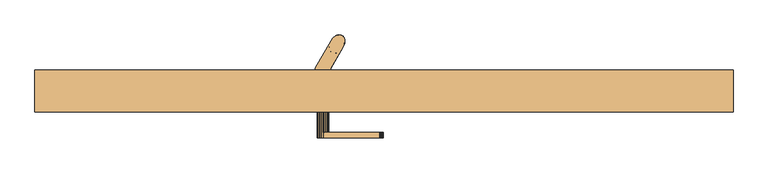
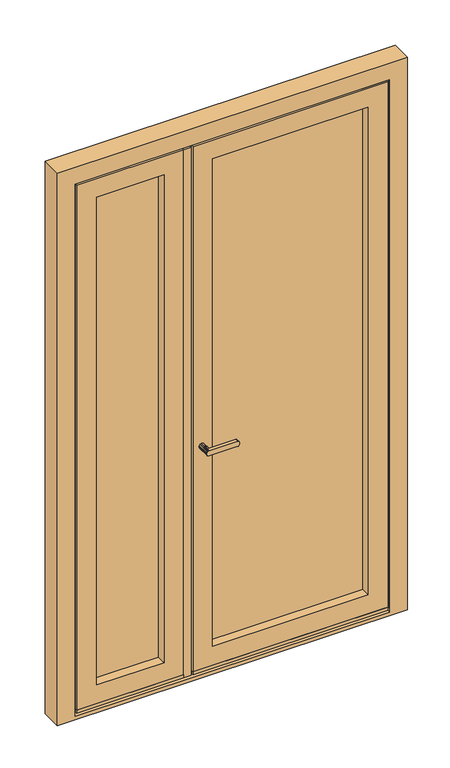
"""IFC4 building model written with IfcOpenShell, lengths in millimetres: door geometry, RDC Tierce."""

from ifc_helpers import new_model, si_unit, frame, origin, place, context, project, spatial, polyline, outline, extrude, faceted_brep, source, transform, mapped, element, save


def door_2a01e5b6(model_context):
    return source(origin(), model_context, "Body", "SolidModel", [
        extrude(outline(polyline([(83.0, 510.0), (83.0, 518.3), (542.0, 518.3), (542.0, 510.0), (83.0, 510.0)])), frame((0.0, 0.0, 176.0160203), z_axis=(0.0, 0.0, 1.0), x_axis=(1.0, 0.0, 0.0)), (0.0, 0.0, 1.0), 13.9839797),
        faceted_brep([(664.2287431, 669.5957857, 2543.5), (662.3389959, 672.5301259, 2543.5), (659.7797595, 674.6325784, 2543.5), (656.6793647, 675.7977178, 2543.5), (653.1932781, 675.9671188, 2543.5), (649.4963068, 675.1322872, 2543.5), (645.7738322, 673.3350848, 2543.5), (642.212515, 670.6656309, 2543.5), (638.9909342, 667.257783, 2543.5), (636.2706335, 663.2824248, 2543.5), (634.1880202, 658.9388975, 2543.5), (632.847525, 654.4450036, 2543.5), (632.3163661, 650.0260857, 2543.5), (632.6211779, 645.9037268, 2543.5), (633.7466761, 642.2846393, 2543.5), (635.6364232, 639.3502991, 2543.5), (638.1956596, 637.2478466, 2543.5), (641.2960545, 636.0827073, 2543.5), (644.7821411, 635.9133062, 2543.5), (648.4791124, 636.7481378, 2543.5), (652.2015869, 638.5453402, 2543.5), (655.7629042, 641.2147941, 2543.5), (658.9844849, 644.622642, 2543.5), (661.7047856, 648.5980002, 2543.5), (663.787399, 652.9415275, 2543.5), (665.1278941, 657.4354214, 2543.5), (665.6590531, 661.8543393, 2543.5), (665.3542412, 665.9766982, 2543.5), (641.2960545, 636.0827073, 213.5), (638.1956596, 637.2478466, 213.5), (635.6364232, 639.3502991, 213.5), (633.7466761, 642.2846393, 213.5), (632.6211779, 645.9037268, 213.5), (632.3163661, 650.0260857, 213.5), (632.847525, 654.4450036, 213.5), (634.1880202, 658.9388975, 213.5), (636.2706335, 663.2824248, 213.5), (638.9909342, 667.257783, 213.5), (642.212515, 670.6656309, 213.5), (645.7738322, 673.3350848, 213.5), (649.4963068, 675.1322872, 213.5), (653.1932781, 675.9671188, 213.5), (656.6793647, 675.7977178, 213.5), (659.7797595, 674.6325784, 213.5), (662.3389959, 672.5301259, 213.5), (664.2287431, 669.5957857, 213.5), (665.3542412, 665.9766982, 213.5), (665.6590531, 661.8543393, 213.5), (665.1278941, 657.4354214, 213.5), (663.787399, 652.9415275, 213.5), (661.7047856, 648.5980002, 213.5), (658.9844849, 644.622642, 213.5), (655.7629042, 641.2147941, 213.5), (652.2015869, 638.5453402, 213.5), (648.4791124, 636.7481378, 213.5), (644.7821411, 635.9133062, 213.5), (636.2706335, 663.2824248, 2461.5363534), (651.359707, 675.6737836, 2451.5235539), (636.2706335, 663.2824248, 2379.5727068), (665.6003323, 660.7160033, 2472.0238283), (661.7047856, 648.5980002, 2461.5363535), (665.6660837, 662.6137692, 2407.8004884), (663.3743296, 671.1586461, 2465.9534284), (661.1357621, 673.6929778, 2391.1124582), (636.2706335, 663.2824248, 295.4636466), (654.9739604, 676.0086042, 291.0465648), (658.2880375, 675.3371129, 365.8875345), (662.8216365, 671.9441463, 278.3729614), (644.8173626, 672.7150625, 284.9761741), (646.4279992, 673.7208861, 349.1995188), (661.7047856, 648.5980002, 1524.125), (661.7047856, 648.5980002, 1451.3125), (664.8941746, 667.852563, 1479.7028575), (665.665922, 662.6324673, 1715.8508426), (665.5746173, 664.3961305, 1628.7148132), (658.2384976, 675.355584, 1649.1392833), (665.6111722, 663.9659798, 315.5847591), (649.3786407, 675.090072, 2365.8602076), (636.2706335, 663.2824248, 2297.6090603), (659.7797595, 674.6325784, 645.7917434), (650.2690581, 675.3859558, 567.5308419), (646.9797034, 674.022678, 664.3001), (661.7047856, 648.5980002, 295.4636465), (636.2706335, 663.2824248, 377.427285), (636.2706335, 663.2824248, 459.3909316), (643.4713681, 671.7249765, 411.1603252), (636.2706335, 663.2824248, 541.3545781), (648.9326886, 674.9214881, 465.8272972), (665.3144918, 666.1847363, 2193.7643232), (665.6224734, 663.8041799, 2110.7348128), (659.7797595, 674.6325784, 2124.9273045), (646.2049157, 673.5927549, 2170.2863632), (636.2706335, 663.2824248, 2124.9272891), (636.2706335, 663.2824248, 2151.9840606), (636.2706335, 663.2824248, 2215.6454137), (665.665306, 662.1811078, 537.3427374), (665.3408861, 658.5715837, 482.8464175), (664.6479148, 668.5799105, 475.9812415), (661.7047856, 648.5980002, 459.3909394), (661.7047856, 648.5980002, 377.4272929), (665.5746001, 660.4054874, 418.4091473), (658.0459914, 675.4246167, 2207.6010696), (665.4158892, 659.0552953, 2345.8396982), (661.7047856, 648.5980002, 2379.5727071), (665.6664295, 662.3084376, 995.8788217), (661.7047856, 648.5980002, 1014.4375), (661.7047856, 648.5980002, 951.1728204), (661.7047856, 648.5980002, 941.625), (660.6488259, 674.0689015, 2319.1105363), (652.1039205, 675.8221956, 2281.0187972), (647.0065401, 674.0368138, 1251.0803702), (647.2240471, 674.1495311, 1156.0819682), (636.2706335, 663.2824248, 1197.0637508), (665.417706, 665.6117516, 2024.6613669), (661.7047856, 648.5980002, 2088.3227071), (661.7047856, 648.5980002, 2034.2091724), (661.7047856, 648.5980002, 1970.5478179), (661.7047856, 648.5980002, 1961.0), (661.7047856, 648.5980002, 2297.6090606), (661.7047856, 648.5980002, 2215.6454141), (665.4534922, 665.3831936, 2291.1727426), (642.6980316, 671.0902337, 2256.6272447), (663.4091328, 671.1042831, 412.2815165), (658.6338215, 675.1999035, 459.5869607), (662.3275508, 672.5430624, 559.7384316), (665.6558834, 663.1202629, 623.1372716), (665.1601142, 666.8877755, 824.0592485), (663.7958748, 670.452716, 755.976985), (660.3986513, 674.2444413, 806.8664485), (661.7047856, 648.5980002, 605.0159394), (659.5366554, 674.7684529, 1498.9341304), (650.7006822, 675.5097517, 1483.9365465), (647.7428531, 674.4051426, 1583.8584055), (646.8651929, 673.9617956, 1712.0756458), (636.2706335, 663.2824248, 1779.5637549), (649.8553332, 675.2552391, 1811.5402594), (658.4405863, 675.2783847, 1950.2220322), (647.6010528, 674.337126, 1910.3982928), (646.7879551, 673.920212, 1992.2156081), (657.0591221, 675.7136248, 1884.1615603), (660.4907093, 674.1811634, 1742.5625207), (665.5520919, 664.6170443, 1930.3440776), (636.2706335, 663.2824248, 1524.9183371), (636.2706335, 663.2824248, 1115.1001042), (636.2706335, 663.2824248, 1160.0625), (664.1212767, 669.8236723, 1391.5634429), (665.4653493, 659.4137508, 1404.6915272), (665.5996972, 660.7076945, 1342.0937793), (645.0339139, 672.8613643, 1647.3446923), (665.4854527, 659.5715133, 764.7534527), (660.356934, 674.2726232, 1279.0274359), (659.5066512, 674.7846122, 1190.1642517), (663.7067927, 670.6111097, 1330.1284283), (658.6694601, 675.1849201, 1365.7002658), (665.5165015, 664.9236714, 1228.6146246), (661.7047856, 648.5980002, 1160.0625), (665.5569044, 664.5719081, 1134.9042363), (662.7331791, 672.0578131, 928.6050736), (660.7294393, 674.0098792, 868.8125416), (648.2893323, 674.6543354, 922.2779045), (663.7133626, 670.5996101, 1049.4347346), (659.9100494, 674.5560359, 985.6282314), (647.6553455, 674.3633321, 1008.143153), (636.2706335, 663.2824248, 951.172811), (636.2706335, 663.2824248, 1014.4375), (636.2706335, 663.2824248, 1033.1364576), (665.6513501, 663.2487647, 905.2187896), (636.2706335, 663.2824248, 623.3182247), (636.2706335, 663.2824248, 668.6772929), (636.2706335, 663.2824248, 705.2818713), (658.0483989, 675.42378, 1101.7395977), (645.3224793, 673.0508949, 1081.8660814), (636.2706335, 663.2824248, 787.2455179), (645.7380673, 673.3131063, 851.8765762), (648.9506958, 674.9285586, 782.5539675), (644.2635775, 672.3247827, 725.8955845), (641.4942725, 669.9985018, 582.3364519), (636.2706335, 663.2824248, 605.0159394), (655.808219, 675.9381907, 718.1476683), (665.6597777, 661.882347, 699.954405), (662.6028918, 672.2199068, 698.6945405), (661.7047856, 648.5980002, 868.8125), (661.7047856, 648.5980002, 796.0), (661.7047856, 648.5980002, 668.6772929), (661.7047856, 648.5980002, 732.3386465), (661.7047856, 648.5980002, 869.2091765), (665.5239649, 659.8994938, 1060.2383949), (661.7047856, 648.5980002, 1087.25), (661.7047856, 648.5980002, 1033.1364644), (661.7047856, 648.5980002, 705.2818803), (661.7047856, 648.5980002, 787.2455243), (636.2706335, 663.2824248, 869.2091645), (657.1369733, 675.6945901, 1041.9282644), (650.1750667, 675.3572925, 1347.9657088), (636.2706335, 663.2824248, 1279.0273973), (665.570659, 664.436851, 1287.1892336), (661.7047856, 648.5980002, 1305.6875), (636.2706335, 663.2824248, 1360.9910439), (648.7021207, 674.8289982, 1416.2157627), (661.7078374, 673.1862589, 1558.5720278), (636.2706335, 663.2824248, 1442.9546905), (636.2706335, 663.2824248, 1451.3125), (636.2706335, 663.2824248, 1524.125), (658.5694133, 675.2265775, 1436.780453), (661.7047856, 648.5980002, 1596.9375), (665.6650765, 662.1622328, 1547.7136117), (661.7047856, 648.5980002, 1378.5), (661.7047856, 648.5980002, 1232.875), (661.7047856, 648.5980002, 1197.0637606), (661.7047856, 648.5980002, 1360.9910568), (661.7047856, 648.5980002, 1279.0274046), (636.2706335, 663.2824248, 1715.9023984), (636.2706335, 663.2824248, 1742.5625), (636.2706335, 663.2824248, 1588.5796936), (663.4718534, 671.0046556, 1849.4762939), (665.4318955, 665.5234036, 1786.6742918), (657.7324588, 675.5279447, 2031.727744), (636.2706335, 663.2824248, 1843.2251113), (665.4991945, 659.6842733, 1851.7812671), (661.7047856, 648.5980002, 1669.75), (661.7047856, 648.5980002, 1742.5625), (661.7047856, 648.5980002, 1715.9024082), (661.7047856, 648.5980002, 1815.375), (636.2706335, 663.2824248, 1305.6875), (636.2706335, 663.2824248, 941.625), (636.2706335, 663.2824248, 1232.875), (661.7047856, 648.5980002, 1442.9547007), (661.7047856, 648.5980002, 1588.5796992), (661.7047856, 648.5980002, 1524.9183447), (636.2706335, 663.2824248, 1087.25), (636.2706335, 663.2824248, 1378.5), (662.1166015, 672.7742818, 2258.8109284), (661.7047856, 648.5980002, 1779.5637626), (661.7047856, 648.5980002, 2151.9840606), (647.6265109, 674.3494395, 2079.5682442), (636.2706335, 663.2824248, 2034.2091726), (636.2706335, 663.2824248, 2088.3227071), (636.2706335, 663.2824248, 1888.1875), (636.2706335, 663.2824248, 1961.0), (636.2706335, 663.2824248, 1970.5478161), (661.7047856, 648.5980002, 1888.1875), (661.7047856, 648.5980002, 1843.2251171), (661.7047856, 648.5980002, 2124.9272941), (661.7047856, 648.5980002, 541.3545859), (636.2706335, 663.2824248, 732.3386465), (661.7047856, 648.5980002, 623.3182363), (636.2706335, 663.2824248, 796.0), (636.2706335, 663.2824248, 868.8125), (661.7047856, 648.5980002, 1115.1001166), (636.2706335, 663.2824248, 1596.9375), (636.2706335, 663.2824248, 1669.75), (636.2706335, 663.2824248, 1815.375), (646.6157121, 636.2066414, 2451.5235539), (632.3750868, 651.1644217, 2472.0238283), (632.3093354, 649.2666558, 2407.8004884), (634.6010896, 640.7217789, 2465.9534284), (636.839657, 638.1874472, 2391.1124582), (643.0014588, 635.8718208, 291.0465648), (639.6873816, 636.5433121, 365.8875345), (635.1537826, 639.9362787, 278.3729614), (653.1580565, 639.1653625, 284.9761741), (651.5474199, 638.1595389, 349.1995188), (633.0812446, 644.027862, 1479.7028575), (632.3094971, 649.2479577, 1715.8508426), (632.4008018, 647.4842945, 1628.7148132), (639.7369216, 636.524841, 1649.1392833), (632.3642469, 647.9144452, 315.5847591), (648.5967784, 636.790353, 2365.8602076), (638.1956596, 637.2478466, 645.7917434), (647.7063611, 636.4944692, 567.5308419), (650.9957157, 637.857747, 664.3001), (654.504051, 640.1554485, 411.1603252), (649.0427305, 636.9589369, 465.8272972), (632.6609273, 645.6956887, 2193.7643232), (632.3529458, 648.0762451, 2110.7348128), (638.1956596, 637.2478466, 2124.9273045), (651.7705035, 638.2876701, 2170.2863632), (632.3101131, 649.6993172, 537.3427374), (632.6345331, 653.3088413, 482.8464175), (633.3275043, 643.3005145, 475.9812415), (632.4008191, 651.4749376, 418.4091473), (639.9294278, 636.4558083, 2207.6010696), (632.55953, 652.8251297, 2345.8396982), (632.3089897, 649.5719874, 995.8788217), (637.3265933, 637.8115235, 2319.1105363), (645.8714986, 636.0582294, 2281.0187972), (650.9688791, 637.8436112, 1251.0803702), (650.751372, 637.7308939, 1156.0819682), (632.5577131, 646.2686734, 2024.6613669), (632.521927, 646.4972314, 2291.1727426), (655.2773876, 640.7901913, 2256.6272447), (634.5662863, 640.7761419, 412.2815165), (639.3415977, 636.6805215, 459.5869607), (635.6478684, 639.3373626, 559.7384316), (632.3195357, 648.7601621, 623.1372716), (632.8153049, 644.9926495, 824.0592485), (634.1795443, 641.427709, 755.976985), (637.5767678, 637.6359837, 806.8664485), (638.4387637, 637.1119721, 1498.9341304), (647.2747369, 636.3706733, 1483.9365465), (650.2325661, 637.4752824, 1583.8584055), (651.1102263, 637.9186294, 1712.0756458), (648.1200859, 636.6251859, 1811.5402594), (639.5348329, 636.6020403, 1950.2220322), (650.3743663, 637.543299, 1910.3982928), (651.187464, 637.960213, 1992.2156081), (640.916297, 636.1668002, 1884.1615603), (637.4847098, 637.6992616, 1742.5625207), (632.4233273, 647.2633807, 1930.3440776), (633.8541424, 642.0567527, 1391.5634429), (632.5100698, 652.4666742, 1404.6915272), (632.375722, 651.1727305, 1342.0937793), (652.9415053, 639.0190607, 1647.3446923), (632.4899664, 652.3089117, 764.7534527), (637.6184851, 637.6078018, 1279.0274359), (638.468768, 637.0958128, 1190.1642517), (634.2686265, 641.2693153, 1330.1284283), (639.305959, 636.6955049, 1365.7002658), (632.4589176, 646.9567536, 1228.6146246), (632.4185148, 647.3085169, 1134.9042363), (635.2422401, 639.8226119, 928.6050736), (637.2459799, 637.8705458, 868.8125416), (649.6860868, 637.2260896, 922.2779045), (634.2620566, 641.2808149, 1049.4347346), (638.0653697, 637.3243891, 985.6282314), (650.3200737, 637.5170929, 1008.143153), (632.324069, 648.6316603, 905.2187896), (639.9270202, 636.456645, 1101.7395977), (652.6529398, 638.8295301, 1081.8660814), (652.2373519, 638.5673187, 851.8765762), (649.0247233, 636.9518664, 782.5539675), (653.7118416, 639.5556423, 725.8955845), (656.4811466, 641.8819232, 582.3364519), (642.1672001, 635.9422343, 718.1476683), (632.3156415, 649.998078, 699.954405), (635.3725273, 639.6605182, 698.6945405), (632.4514543, 651.9809312, 1060.2383949), (640.8384458, 636.1858349, 1041.9282644), (647.8003524, 636.5231325, 1347.9657088), (632.4047602, 647.443574, 1287.1892336), (649.2732985, 637.0514268, 1416.2157627), (636.2675817, 638.6941661, 1558.5720278), (639.4060058, 636.6538475, 1436.780453), (632.3103427, 649.7181922, 1547.7136117), (634.5035658, 640.8757694, 1849.4762939), (632.5435236, 646.3570214, 1786.6742918), (640.2429603, 636.3524803, 2031.727744), (632.4762247, 652.1961517, 1851.7812671), (635.8588176, 639.1061432, 2258.8109284), (650.3489083, 637.5309855, 2079.5682442)], [[[0, 1, 2, 3, 4, 5, 6, 7, 8, 9, 10, 11, 12, 13, 14, 15, 16, 17, 18, 19, 20, 21, 22, 23, 24, 25, 26, 27]], [[28, 29, 30, 31, 32, 33, 34, 35, 36, 37, 38, 39, 40, 41, 42, 43, 44, 45, 46, 47, 48, 49, 50, 51, 52, 53, 54, 55]], [[56, 57, 58]], [[59, 60, 61]], [[62, 3, 2]], [[5, 57, 6]], [[7, 56, 8]], [[25, 24, 59]], [[62, 57, 3]], [[0, 62, 1]], [[57, 62, 63]], [[37, 36, 64]], [[56, 9, 8]], [[65, 66, 67]], [[5, 4, 57]], [[68, 39, 38]], [[1, 62, 2]], [[68, 64, 69]], [[41, 65, 42]], [[62, 59, 61]], [[70, 71, 72]], [[73, 74, 75]], [[76, 46, 67]], [[58, 77, 78]], [[79, 80, 81]], [[23, 60, 24]], [[82, 50, 49]], [[83, 84, 85]], [[86, 80, 87]], [[65, 67, 43]], [[69, 83, 85]], [[7, 57, 56]], [[88, 89, 90]], [[68, 65, 40]], [[91, 92, 93, 94]], [[69, 66, 65]], [[67, 44, 43]], [[95, 96, 97]], [[98, 99, 100]], [[38, 37, 68]], [[101, 90, 91]], [[65, 68, 69]], [[59, 62, 27]], [[102, 61, 103]], [[6, 57, 7]], [[4, 3, 57]], [[59, 26, 25]], [[104, 105, 106, 107]], [[90, 101, 88]], [[43, 42, 65]], [[48, 47, 76]], [[61, 63, 62]], [[48, 76, 82]], [[76, 47, 46]], [[108, 109, 77]], [[45, 67, 46]], [[110, 111, 112]], [[65, 41, 40]], [[62, 0, 27]], [[113, 114, 115, 116, 117]], [[103, 118, 102]], [[118, 119, 120]], [[103, 61, 60]], [[108, 102, 120]], [[120, 119, 88]], [[77, 57, 63]], [[121, 101, 91]], [[84, 86, 87]], [[83, 69, 64]], [[122, 66, 123]], [[80, 79, 124]], [[124, 79, 125]], [[126, 127, 128]], [[122, 100, 76]], [[125, 129, 95]], [[77, 58, 57]], [[130, 131, 132]], [[133, 134, 135]], [[77, 121, 78]], [[136, 137, 138]], [[137, 136, 139]], [[140, 73, 75]], [[141, 139, 136]], [[132, 131, 142]], [[111, 143, 144, 112]], [[145, 146, 147]], [[133, 75, 148]], [[126, 149, 127]], [[150, 151, 110]], [[152, 150, 153]], [[154, 155, 156]], [[157, 158, 159]], [[160, 104, 161]], [[162, 163, 164, 165]], [[157, 166, 158]], [[81, 167, 168, 169]], [[170, 171, 111]], [[80, 124, 123]], [[78, 121, 94]], [[172, 173, 174]], [[169, 175, 81]], [[176, 86, 177, 167]], [[176, 167, 81]], [[178, 175, 174]], [[79, 81, 178]], [[173, 159, 158]], [[179, 125, 180]], [[181, 182, 126]], [[79, 178, 180]], [[149, 179, 127]], [[127, 178, 128]], [[87, 80, 123]], [[97, 124, 95]], [[95, 124, 125]], [[183, 125, 179]], [[149, 184, 179]], [[178, 127, 180]], [[161, 159, 162]], [[181, 126, 166]], [[104, 157, 161]], [[166, 107, 185, 181]], [[126, 128, 158]], [[104, 107, 166]], [[111, 171, 143]], [[182, 149, 126]], [[126, 158, 166]], [[186, 187, 188, 105]], [[186, 160, 156]], [[179, 184, 189, 183]], [[149, 182, 190, 184]], [[191, 159, 173]], [[158, 128, 173]], [[174, 128, 178]], [[160, 161, 192]], [[159, 163, 162]], [[170, 111, 151]], [[165, 171, 162]], [[110, 151, 111]], [[150, 110, 193]], [[110, 194, 193]], [[195, 147, 196]], [[193, 197, 198]], [[145, 72, 146]], [[193, 198, 153]], [[199, 72, 130]], [[131, 200, 201, 202, 142]], [[198, 203, 153]], [[151, 156, 170]], [[204, 205, 74]], [[146, 206, 147]], [[150, 154, 151]], [[160, 192, 170]], [[154, 207, 208, 155]], [[151, 154, 156]], [[147, 206, 209, 196]], [[195, 196, 210, 207]], [[147, 152, 145]], [[195, 152, 147]], [[133, 211, 212, 134]], [[199, 132, 75]], [[132, 213, 148]], [[199, 75, 74]], [[133, 140, 75]], [[140, 133, 135]], [[148, 211, 133]], [[140, 135, 214]], [[73, 140, 215]], [[136, 138, 216]], [[135, 217, 137]], [[214, 141, 218]], [[72, 199, 205]], [[73, 219, 74]], [[73, 220, 221, 219]], [[215, 218, 222]], [[193, 194, 223, 197]], [[159, 191, 224, 163]], [[110, 112, 225, 194]], [[72, 205, 70]], [[72, 71, 146]], [[131, 130, 203]], [[146, 71, 226, 206]], [[74, 219, 204]], [[205, 199, 74]], [[205, 204, 227, 228, 70]], [[171, 165, 229, 143]], [[192, 162, 171]], [[145, 152, 153]], [[154, 150, 195]], [[145, 153, 203]], [[193, 153, 150]], [[145, 203, 72]], [[198, 131, 203]], [[198, 200, 131]], [[198, 197, 230, 200]], [[152, 195, 150]], [[207, 154, 195]], [[203, 130, 72]], [[199, 130, 132]], [[231, 108, 120]], [[215, 222, 232, 220]], [[89, 114, 113]], [[136, 113, 141]], [[88, 233, 89]], [[234, 90, 216]], [[90, 89, 113]], [[88, 119, 233]], [[120, 88, 231]], [[234, 91, 90]], [[235, 234, 138]], [[234, 235, 236, 92]], [[216, 138, 234]], [[92, 91, 234]], [[109, 101, 121]], [[137, 217, 237, 238, 239]], [[138, 137, 239]], [[216, 113, 136]], [[113, 216, 90]], [[141, 113, 117]], [[214, 135, 139]], [[104, 160, 186]], [[160, 170, 156]], [[105, 104, 186]], [[187, 186, 156]], [[240, 218, 141]], [[138, 239, 235]], [[218, 240, 241, 222]], [[141, 117, 240]], [[214, 218, 215]], [[214, 215, 140]], [[220, 73, 215]], [[89, 233, 242, 114]], [[24, 60, 59]], [[26, 59, 27]], [[102, 108, 63]], [[37, 64, 68]], [[39, 68, 40]], [[87, 66, 85]], [[94, 121, 91]], [[109, 121, 77]], [[100, 96, 98]], [[166, 157, 104]], [[97, 100, 122]], [[243, 96, 95]], [[100, 99, 76]], [[97, 122, 123]], [[66, 122, 76]], [[97, 123, 124]], [[87, 123, 66]], [[137, 139, 135]], [[214, 139, 141]], [[61, 102, 63]], [[120, 102, 118]], [[69, 85, 66]], [[87, 85, 84]], [[170, 192, 171]], [[192, 161, 162]], [[82, 49, 48]], [[76, 99, 82]], [[97, 96, 100]], [[98, 96, 243]], [[44, 67, 45]], [[76, 67, 66]], [[63, 108, 77]], [[101, 109, 231]], [[108, 231, 109]], [[101, 231, 88]], [[176, 80, 86]], [[80, 176, 81]], [[81, 175, 178]], [[175, 172, 174]], [[79, 180, 125]], [[175, 169, 244, 172]], [[180, 127, 179]], [[243, 95, 129]], [[125, 183, 245, 129]], [[161, 157, 159]], [[173, 172, 246, 247, 191]], [[128, 174, 173]], [[156, 155, 248, 187]], [[148, 213, 249, 250, 211]], [[132, 142, 213]], [[132, 148, 75]], [[135, 134, 251, 217]], [[60, 252, 103]], [[253, 56, 254]], [[255, 17, 16]], [[19, 252, 20]], [[21, 60, 22]], [[11, 10, 253]], [[255, 252, 17]], [[14, 255, 15]], [[252, 255, 256]], [[51, 50, 82]], [[60, 23, 22]], [[257, 258, 259]], [[19, 18, 252]], [[260, 53, 52]], [[15, 255, 16]], [[260, 82, 261]], [[55, 257, 28]], [[255, 253, 254]], [[202, 201, 262]], [[263, 264, 265]], [[266, 32, 259]], [[103, 267, 118]], [[268, 269, 270]], [[9, 56, 10]], [[64, 36, 35]], [[99, 98, 271]], [[243, 269, 272]], [[257, 259, 29]], [[261, 99, 271]], [[21, 252, 60]], [[273, 274, 275]], [[260, 257, 54]], [[276, 242, 233, 119]], [[261, 258, 257]], [[259, 30, 29]], [[277, 278, 279]], [[84, 83, 280]], [[52, 51, 260]], [[281, 275, 276]], [[257, 260, 261]], [[253, 255, 13]], [[282, 254, 58]], [[20, 252, 21]], [[18, 17, 252]], [[253, 12, 11]], [[283, 164, 163, 224]], [[275, 281, 273]], [[29, 28, 257]], [[34, 33, 266]], [[254, 256, 255]], [[34, 266, 64]], [[266, 33, 32]], [[284, 285, 267]], [[31, 259, 32]], [[286, 287, 208]], [[257, 55, 54]], [[255, 14, 13]], [[288, 236, 235, 239, 238]], [[58, 78, 282]], [[78, 94, 289]], [[58, 254, 56]], [[284, 282, 289]], [[289, 94, 273]], [[267, 252, 256]], [[290, 281, 276]], [[98, 243, 272]], [[99, 261, 82]], [[291, 258, 292]], [[269, 268, 293]], [[293, 268, 294]], [[295, 296, 297]], [[291, 280, 266]], [[294, 177, 277]], [[267, 103, 252]], [[298, 299, 300]], [[301, 232, 302]], [[267, 290, 118]], [[303, 304, 305]], [[304, 303, 306]], [[307, 263, 265]], [[308, 306, 303]], [[300, 299, 228]], [[287, 248, 155, 208]], [[309, 310, 311]], [[301, 265, 312]], [[295, 313, 296]], [[314, 315, 286]], [[316, 314, 317]], [[318, 144, 319]], [[320, 321, 322]], [[323, 283, 324]], [[325, 106, 105, 188]], [[320, 326, 321]], [[270, 245, 183, 189]], [[327, 328, 287]], [[269, 293, 292]], [[118, 290, 119]], [[190, 329, 330]], [[189, 331, 270]], [[332, 243, 129, 245]], [[332, 245, 270]], [[333, 331, 330]], [[268, 270, 333]], [[329, 322, 321]], [[334, 294, 335]], [[247, 246, 295]], [[268, 333, 335]], [[313, 334, 296]], [[296, 333, 297]], [[272, 269, 292]], [[279, 293, 277]], [[277, 293, 294]], [[168, 294, 334]], [[313, 244, 334]], [[333, 296, 335]], [[324, 322, 325]], [[247, 295, 326]], [[283, 320, 324]], [[326, 224, 191, 247]], [[295, 297, 321]], [[283, 224, 326]], [[287, 328, 248]], [[246, 313, 295]], [[295, 321, 326]], [[336, 229, 165, 164]], [[336, 323, 319]], [[334, 244, 169, 168]], [[313, 246, 172, 244]], [[185, 322, 329]], [[321, 297, 329]], [[330, 297, 333]], [[323, 324, 337]], [[322, 106, 325]], [[327, 287, 315]], [[188, 328, 325]], [[286, 315, 287]], [[314, 286, 338]], [[286, 210, 338]], [[339, 311, 223]], [[338, 209, 340]], [[309, 262, 310]], [[338, 340, 317]], [[341, 262, 298]], [[299, 226, 71, 70, 228]], [[340, 342, 317]], [[315, 319, 327]], [[249, 343, 264]], [[310, 230, 311]], [[314, 318, 315]], [[323, 337, 327]], [[318, 225, 112, 144]], [[315, 318, 319]], [[311, 230, 197, 223]], [[339, 223, 194, 225]], [[311, 316, 309]], [[339, 316, 311]], [[301, 221, 220, 232]], [[341, 300, 265]], [[300, 227, 312]], [[341, 265, 264]], [[301, 307, 265]], [[307, 301, 302]], [[312, 221, 301]], [[307, 302, 344]], [[263, 307, 345]], [[303, 305, 346]], [[302, 241, 304]], [[344, 308, 347]], [[262, 341, 343]], [[263, 250, 264]], [[263, 212, 211, 250]], [[345, 347, 251]], [[338, 210, 196, 209]], [[322, 185, 107, 106]], [[286, 208, 207, 210]], [[262, 343, 202]], [[262, 201, 310]], [[299, 298, 342]], [[310, 201, 200, 230]], [[264, 250, 249]], [[343, 341, 264]], [[343, 249, 213, 142, 202]], [[328, 188, 187, 248]], [[337, 325, 328]], [[309, 316, 317]], [[318, 314, 339]], [[309, 317, 342]], [[338, 317, 314]], [[309, 342, 262]], [[340, 299, 342]], [[340, 226, 299]], [[340, 209, 206, 226]], [[316, 339, 314]], [[225, 318, 339]], [[342, 298, 262]], [[341, 298, 300]], [[348, 284, 289]], [[345, 251, 134, 212]], [[274, 236, 288]], [[303, 288, 308]], [[273, 93, 274]], [[349, 275, 346]], [[275, 274, 288]], [[273, 94, 93]], [[289, 273, 348]], [[349, 276, 275]], [[115, 349, 305]], [[349, 115, 114, 242]], [[346, 305, 349]], [[242, 276, 349]], [[285, 281, 290]], [[304, 241, 240, 117, 116]], [[305, 304, 116]], [[346, 288, 303]], [[288, 346, 275]], [[308, 288, 238]], [[344, 302, 306]], [[283, 323, 336]], [[323, 327, 319]], [[164, 283, 336]], [[229, 336, 319]], [[237, 347, 308]], [[305, 116, 115]], [[347, 237, 217, 251]], [[308, 238, 237]], [[344, 347, 345]], [[344, 345, 307]], [[212, 263, 345]], [[274, 93, 92, 236]], [[10, 56, 253]], [[12, 253, 13]], [[282, 284, 256]], [[51, 82, 260]], [[53, 260, 54]], [[272, 258, 271]], [[119, 290, 276]], [[285, 290, 267]], [[280, 278, 84]], [[326, 320, 283]], [[279, 280, 291]], [[86, 278, 277]], [[280, 83, 266]], [[279, 291, 292]], [[258, 291, 266]], [[279, 292, 293]], [[272, 292, 258]], [[304, 306, 302]], [[344, 306, 308]], [[254, 282, 256]], [[289, 282, 78]], [[261, 271, 258]], [[272, 271, 98]], [[327, 337, 328]], [[337, 324, 325]], [[64, 35, 34]], [[266, 83, 64]], [[279, 278, 280]], [[84, 278, 86]], [[30, 259, 31]], [[266, 259, 258]], [[256, 284, 267]], [[281, 285, 348]], [[284, 348, 285]], [[281, 348, 273]], [[332, 269, 243]], [[269, 332, 270]], [[270, 331, 333]], [[331, 190, 330]], [[268, 335, 294]], [[331, 189, 184, 190]], [[335, 296, 334]], [[86, 277, 177]], [[294, 168, 167, 177]], [[324, 320, 322]], [[329, 190, 182, 181, 185]], [[297, 330, 329]], [[319, 144, 143, 229]], [[312, 227, 204, 219, 221]], [[300, 228, 227]], [[300, 312, 265]], [[302, 232, 222, 241]]]),
        faceted_brep([(635.9561005, 600.0, 243.5), (635.9561005, 604.0, 243.5), (602.0438995, 604.0, 243.5), (602.0438995, 600.0, 243.5), (635.9561005, 604.0, 213.5), (602.0438995, 604.0, 213.5), (635.9561005, 600.0, 209.5), (635.9561005, 604.0, 209.5), (602.0438995, 600.0, 209.5), (602.0438995, 604.0, 209.5), (662.3389949, 672.5301271, 213.5), (659.7797579, 674.6325794, 213.5), (656.6793625, 675.7977182, 213.5), (653.1932755, 675.9671186, 213.5), (649.4963038, 675.1322861, 213.5), (645.773829, 673.3350828, 213.5), (642.2125117, 670.6656279, 213.5), (638.9909311, 667.2577791, 213.5), (636.2706308, 663.2824201, 213.5), (661.7047856, 648.5980002, 213.5), (663.7873991, 652.9415279, 213.5), (665.1278943, 657.4354221, 213.5), (665.6590531, 661.8543403, 213.5), (665.354241, 665.9766994, 213.5), (664.2287425, 669.5957871, 213.5), (636.2706308, 663.2824201, 209.5), (638.9909311, 667.2577791, 209.5), (642.2125117, 670.6656279, 209.5), (645.773829, 673.3350828, 209.5), (649.4963038, 675.1322861, 209.5), (653.1932755, 675.9671186, 209.5), (656.6793625, 675.7977182, 209.5), (659.7797579, 674.6325794, 209.5), (662.3389949, 672.5301271, 209.5), (664.2287425, 669.5957871, 209.5), (665.354241, 665.9766994, 209.5), (665.6590531, 661.8543403, 209.5), (665.1278943, 657.4354221, 209.5), (663.7873991, 652.9415279, 209.5), (661.7047856, 648.5980002, 209.5), (636.2706308, 663.2824201, 211.9099144), (661.7047856, 648.5980002, 211.0900849), (663.3743289, 671.1586471, 211.5), (651.3597053, 675.6737832, 211.5), (665.6445577, 661.4468941, 211.5)], [[[0, 1, 2, 3]], [[4, 5, 2, 1]], [[6, 7, 4, 1, 0]], [[8, 6, 0, 3]], [[9, 8, 3, 2, 5]], [[10, 11, 12, 13, 14, 15, 16, 17, 18, 5, 4, 19, 20, 21, 22, 23, 24]], [[6, 8, 9, 25, 26, 27, 28, 29, 30, 31, 32, 33, 34, 35, 36, 37, 38, 39, 7]], [[9, 5, 18, 40, 25]], [[7, 39, 41, 19, 4]], [[40, 18, 17]], [[26, 25, 40]], [[24, 42, 10]], [[43, 27, 40]], [[40, 27, 26]], [[43, 30, 29]], [[15, 43, 16]], [[13, 43, 14]], [[32, 31, 43]], [[41, 39, 38]], [[20, 19, 41]], [[28, 43, 29]], [[17, 16, 40]], [[31, 30, 43]], [[35, 34, 42]], [[28, 27, 43]], [[20, 41, 44]], [[15, 14, 43]], [[13, 12, 43]], [[40, 16, 43]], [[11, 43, 12]], [[32, 43, 42]], [[34, 33, 42]], [[35, 44, 36]], [[38, 37, 41]], [[37, 44, 41]], [[36, 44, 37]], [[44, 21, 20]], [[42, 43, 11]], [[32, 42, 33]], [[42, 11, 10]], [[23, 42, 24]], [[44, 42, 23]], [[35, 42, 44]], [[23, 22, 44]], [[22, 21, 44]]]),
        extrude(outline(polyline([(574.0, 510.0), (542.0, 510.0), (542.0, 518.3), (574.0, 518.3), (574.0, 510.0)])), frame((0.0, 0.0, 176.0160203), z_axis=(0.0, 0.0, 1.0), x_axis=(1.0, 0.0, 0.0)), (0.0, 0.0, 1.0), 2390.9839797),
        extrude(outline(polyline([(651.0, 589.0), (1347.0, 589.0), (1347.0, 551.0), (651.0, 551.0), (651.0, 589.0)])), frame((0.0, 0.0, 260.0), z_axis=(0.0, 0.0, 1.0), x_axis=(1.0, 0.0, 0.0)), (0.0, 0.0, 1.0), 2237.0),
        extrude(outline(polyline([(581.0, 510.0), (581.0, 518.3), (1417.0, 518.3), (1417.0, 510.0), (581.0, 510.0)])), frame((0.0, 0.0, 176.0), z_axis=(0.0, 0.0, 1.0), x_axis=(1.0, 0.0, 0.0)), (0.0, 0.0, 1.0), 14.0),
        faceted_brep([(168.0000305, 551.0, 2481.9999695), (168.0000305, 510.0, 2481.9999695), (168.0000305, 510.0, 275.0000305), (168.0000305, 551.0, 275.0000305), (83.0, 510.0, 2567.0), (83.0, 510.0, 190.0), (542.0, 510.0, 190.0), (542.0, 510.0, 2567.0), (456.9999695, 510.0, 2481.9999695), (456.9999695, 510.0, 275.0000305), (456.9999695, 551.0, 275.0000305), (153.0, 551.0, 260.0), (153.0, 551.0, 2497.0), (472.0, 551.0, 2497.0), (472.0, 551.0, 260.0), (456.9999695, 551.0, 2481.9999695), (153.0, 589.0, 2497.0), (153.0, 589.0, 260.0), (472.0, 589.0, 260.0), (472.0, 589.0, 2497.0), (170.0, 589.0, 277.0), (170.0, 589.0, 2480.0), (455.0, 589.0, 2480.0), (455.0, 589.0, 277.0), (170.0, 600.0, 2480.0), (170.0, 600.0, 277.0), (455.0, 600.0, 277.0), (51.0, 600.0, 158.0), (51.0, 600.0, 2599.0), (542.0, 600.0, 2599.0), (542.0, 600.0, 158.0), (455.0, 600.0, 2480.0), (51.0, 591.7, 2599.0), (51.0, 591.7, 158.0), (542.0, 591.7, 158.0), (542.0, 591.7, 178.5), (71.5, 591.7, 178.5), (71.5, 591.7, 2578.5), (542.0, 591.7, 2578.5), (542.0, 591.7, 2599.0), (71.5, 518.3, 2578.5), (71.5, 518.3, 178.5), (553.5, 591.7, 178.5), (553.5, 518.3, 178.5), (553.5, 518.3, 2578.5), (83.0, 518.3, 190.0), (83.0, 518.3, 2567.0), (542.0, 518.3, 2567.0), (542.0, 518.3, 190.0), (553.5, 591.7, 2578.5)], [[[0, 1, 2, 3]], [[4, 5, 6, 7], [2, 1, 8, 9]], [[3, 2, 9, 10]], [[11, 12, 13, 14], [0, 3, 10, 15]], [[16, 12, 11, 17]], [[17, 11, 14, 18]], [[16, 17, 18, 19], [20, 21, 22, 23]], [[24, 21, 20, 25]], [[25, 20, 23, 26]], [[27, 28, 29, 30], [24, 25, 26, 31]], [[32, 28, 27, 33]], [[33, 27, 30, 34]], [[32, 33, 34, 35, 36, 37, 38, 39]], [[40, 37, 36, 41]], [[41, 36, 35, 42, 43]], [[40, 41, 43, 44], [45, 46, 47, 48]], [[4, 46, 45, 5]], [[5, 45, 48, 6]], [[10, 9, 8, 15]], [[18, 14, 13, 19]], [[26, 23, 22, 31]], [[43, 42, 49, 44]], [[1, 0, 15, 8]], [[12, 16, 19, 13]], [[21, 24, 31, 22]], [[28, 32, 39, 29]], [[37, 40, 44, 49, 38]], [[46, 4, 7, 47]], [[38, 35, 34, 30, 29, 39]], [[35, 38, 49, 42]], [[6, 48, 47, 7]]]),
        faceted_brep([(569.5, 518.3, 2578.5), (569.5, 591.7, 2578.5), (569.5, 591.7, 178.5), (569.5, 518.3, 178.5), (549.0, 591.7, 2599.0), (549.0, 591.7, 158.0), (1449.0, 591.7, 158.0), (1449.0, 591.7, 2599.0), (1428.5, 591.7, 2578.5), (1428.5, 591.7, 178.5), (1428.5, 518.3, 178.5), (1428.5, 518.3, 2578.5), (1417.0, 518.3, 2567.0), (1417.0, 518.3, 190.0), (581.0, 518.3, 190.0), (581.0, 518.3, 2567.0), (581.0, 510.0, 2567.0), (581.0, 510.0, 190.0), (1417.0, 510.0, 190.0), (1417.0, 510.0, 2567.0), (1331.9999695, 510.0, 2481.9999695), (1331.9999695, 510.0, 275.0000305), (666.0000305, 510.0, 275.0000305), (666.0000305, 510.0, 2481.9999695), (666.0000305, 551.0, 2481.9999695), (666.0000305, 551.0, 275.0000305), (1331.9999695, 551.0, 275.0000305), (1347.0, 551.0, 2497.0), (1347.0, 551.0, 260.0), (651.0, 551.0, 260.0), (651.0, 551.0, 2497.0), (1331.9999695, 551.0, 2481.9999695), (651.0, 589.0, 2497.0), (651.0, 589.0, 260.0), (1347.0, 589.0, 260.0), (1347.0, 589.0, 2497.0), (1330.0, 589.0, 2480.0), (1330.0, 589.0, 277.0), (668.0, 589.0, 277.0), (668.0, 589.0, 2480.0), (668.0, 600.0, 2480.0), (668.0, 600.0, 277.0), (1330.0, 600.0, 277.0), (1449.0, 600.0, 2599.0), (1449.0, 600.0, 158.0), (549.0, 600.0, 158.0), (549.0, 600.0, 2599.0), (1330.0, 600.0, 2480.0)], [[[0, 1, 2, 3]], [[4, 5, 6, 7], [8, 9, 2, 1]], [[3, 2, 9, 10]], [[0, 3, 10, 11], [12, 13, 14, 15]], [[16, 15, 14, 17]], [[17, 14, 13, 18]], [[16, 17, 18, 19], [20, 21, 22, 23]], [[24, 23, 22, 25]], [[25, 22, 21, 26]], [[27, 28, 29, 30], [24, 25, 26, 31]], [[32, 30, 29, 33]], [[33, 29, 28, 34]], [[32, 33, 34, 35], [36, 37, 38, 39]], [[40, 39, 38, 41]], [[41, 38, 37, 42]], [[43, 44, 45, 46], [40, 41, 42, 47]], [[4, 46, 45, 5]], [[5, 45, 44, 6]], [[10, 9, 8, 11]], [[18, 13, 12, 19]], [[26, 21, 20, 31]], [[34, 28, 27, 35]], [[42, 37, 36, 47]], [[6, 44, 43, 7]], [[11, 8, 1, 0]], [[19, 12, 15, 16]], [[31, 20, 23, 24]], [[35, 27, 30, 32]], [[47, 36, 39, 40]], [[7, 43, 46, 4]]]),
        faceted_brep([(602.0438995, 600.0, 2513.5), (602.0438995, 604.0, 2513.5), (635.9561005, 604.0, 2513.5), (635.9561005, 600.0, 2513.5), (602.0438995, 604.0, 2543.5), (635.9561005, 604.0, 2543.5), (635.9561005, 604.0, 2547.5), (635.9561005, 600.0, 2547.5), (602.0438995, 600.0, 2547.5), (602.0438995, 604.0, 2547.5), (636.2706335, 663.2824248, 2543.5), (638.9909342, 667.257783, 2543.5), (642.212515, 670.6656309, 2543.5), (645.7738322, 673.3350848, 2543.5), (649.4963068, 675.1322872, 2543.5), (653.1932781, 675.9671188, 2543.5), (656.6793647, 675.7977178, 2543.5), (659.7797595, 674.6325784, 2543.5), (662.3389959, 672.5301259, 2543.5), (664.2287431, 669.5957857, 2543.5), (665.3542412, 665.9766982, 2543.5), (665.6590531, 661.8543393, 2543.5), (665.1278941, 657.4354214, 2543.5), (663.787399, 652.9415275, 2543.5), (661.7047856, 648.5980002, 2543.5), (662.3389959, 672.5301259, 2547.5), (659.7797595, 674.6325784, 2547.5), (656.6793647, 675.7977178, 2547.5), (653.1932781, 675.9671188, 2547.5), (649.4963068, 675.1322872, 2547.5), (645.7738322, 673.3350848, 2547.5), (642.212515, 670.6656309, 2547.5), (638.9909342, 667.257783, 2547.5), (636.2706335, 663.2824248, 2547.5), (661.7047856, 648.5980002, 2547.5), (663.787399, 652.9415275, 2547.5), (665.1278941, 657.4354214, 2547.5), (665.6590531, 661.8543393, 2547.5), (665.3542412, 665.9766982, 2547.5), (664.2287431, 669.5957857, 2547.5), (636.2706335, 663.2824248, 2545.9099144), (661.7047856, 648.5980002, 2545.0900849), (663.3743297, 671.1586458, 2545.5), (651.3597081, 675.6737838, 2545.5), (665.6445577, 661.4468931, 2545.5)], [[[0, 1, 2, 3]], [[2, 1, 4, 5]], [[3, 2, 5, 6, 7]], [[0, 3, 7, 8]], [[1, 0, 8, 9, 4]], [[5, 4, 10, 11, 12, 13, 14, 15, 16, 17, 18, 19, 20, 21, 22, 23, 24]], [[25, 26, 27, 28, 29, 30, 31, 32, 33, 9, 8, 7, 6, 34, 35, 36, 37, 38, 39]], [[4, 9, 33, 40, 10]], [[5, 24, 41, 34, 6]], [[40, 33, 32]], [[11, 10, 40]], [[39, 42, 25]], [[43, 12, 40]], [[40, 12, 11]], [[43, 15, 14]], [[30, 43, 31]], [[28, 43, 29]], [[17, 16, 43]], [[41, 24, 23]], [[35, 34, 41]], [[13, 43, 14]], [[32, 31, 40]], [[16, 15, 43]], [[20, 19, 42]], [[13, 12, 43]], [[35, 41, 44]], [[30, 29, 43]], [[28, 27, 43]], [[40, 31, 43]], [[26, 43, 27]], [[17, 43, 42]], [[19, 18, 42]], [[20, 44, 21]], [[23, 22, 41]], [[22, 44, 41]], [[21, 44, 22]], [[44, 36, 35]], [[42, 43, 26]], [[17, 42, 18]], [[42, 26, 25]], [[38, 42, 39]], [[44, 42, 38]], [[20, 42, 44]], [[38, 37, 44]], [[37, 36, 44]]]),
        extrude(outline(polyline([(472.0, 551.0), (153.0, 551.0), (153.0, 589.0), (472.0, 589.0), (472.0, 551.0)])), frame((0.0, 0.0, 260.0), z_axis=(0.0, 0.0, 1.0), x_axis=(1.0, 0.0, 0.0)), (0.0, 0.0, 1.0), 2237.0),
        faceted_brep([(610.5227579, 510.0, 1208.4772421), (613.0056846, 510.0, 1210.3824588), (615.897114, 510.0, 1211.5801281), (619.0, 510.0, 1211.9886308), (622.102886, 510.0, 1211.5801281), (624.9943154, 510.0, 1210.3824588), (627.4772421, 510.0, 1208.4772421), (629.3824588, 510.0, 1205.9943154), (630.5801281, 510.0, 1203.102886), (630.9886308, 510.0, 1200.0), (630.5801281, 510.0, 1196.897114), (629.3824588, 510.0, 1194.0056846), (627.4772421, 510.0, 1191.5227579), (624.9943154, 510.0, 1189.6175412), (622.102886, 510.0, 1188.4198719), (619.0, 510.0, 1188.0113692), (615.897114, 510.0, 1188.4198719), (613.0056846, 510.0, 1189.6175412), (610.5227579, 510.0, 1191.5227579), (608.6175412, 510.0, 1194.0056846), (607.4198719, 510.0, 1196.897114), (607.0113692, 510.0, 1200.0), (607.4198719, 510.0, 1203.102886), (608.6175412, 510.0, 1205.9943154), (622.102886, 466.5001175, 1188.4198719), (619.0, 466.5001175, 1188.0113692), (624.9943154, 466.5001175, 1189.6175412), (629.3824588, 466.5001175, 1194.0056846), (627.4772421, 466.5001175, 1191.5227579), (630.5801281, 466.5001175, 1196.897114), (630.9886308, 466.5001175, 1200.0), (630.5801281, 466.5001175, 1203.102886), (629.3824588, 466.5001175, 1205.9943154), (624.9943154, 466.5001175, 1210.3824588), (627.4772421, 466.5001175, 1208.4772421), (622.102886, 466.5001175, 1211.5801281), (619.0, 466.5001175, 1211.9886308), (615.897114, 454.0000305, 1211.5801281), (619.0, 454.0000305, 1211.9886308), (613.0056846, 454.0000305, 1210.3824588), (608.6175412, 454.0000305, 1205.9943154), (610.5227579, 454.0000305, 1208.4772421), (607.4198719, 454.0000305, 1203.102886), (607.0113692, 454.0000305, 1200.0), (607.4198719, 454.0000305, 1196.897114), (608.6175412, 454.0000305, 1194.0056846), (613.0056846, 454.0000305, 1189.6175412), (610.5227579, 454.0000305, 1191.5227579), (615.897114, 454.0000305, 1188.4198719), (619.0, 454.0000305, 1188.0113692), (740.6617926, 454.0000305, 1188.0113692), (742.2039971, 454.0000305, 1188.2417274), (743.6869356, 454.0000305, 1188.9239494), (745.0536195, 454.0000305, 1190.0318178), (746.2515279, 454.0000305, 1191.5227579), (747.234626, 454.0000305, 1193.3394736), (747.9651338, 454.0000305, 1195.4121496), (748.4149782, 454.0000305, 1197.6611342), (748.5668721, 454.0000305, 1200.0), (748.4149782, 454.0000305, 1202.3388658), (747.9651338, 454.0000305, 1204.5878504), (747.234626, 454.0000305, 1206.6605264), (746.2515279, 454.0000305, 1208.4772421), (745.0536195, 454.0000305, 1209.9681822), (743.6869356, 454.0000305, 1211.0760506), (742.2039971, 454.0000305, 1211.7582726), (740.6617926, 454.0000305, 1211.9886308), (747.9651338, 466.5001175, 1195.4121496), (747.234626, 466.5001175, 1193.3394736), (746.2515279, 466.5001175, 1191.5227579), (745.0536195, 466.5001175, 1190.0318178), (743.6869356, 466.5001175, 1188.9239494), (742.2039971, 466.5001175, 1188.2417274), (740.6617926, 466.5001175, 1188.0113692), (740.6617926, 466.5001175, 1211.9886308), (742.2039971, 466.5001175, 1211.7582726), (743.6869356, 466.5001175, 1211.0760506), (745.0536195, 466.5001175, 1209.9681822), (746.2515279, 466.5001175, 1208.4772421), (747.234626, 466.5001175, 1206.6605264), (747.9651338, 466.5001175, 1204.5878504), (748.4149782, 466.5001175, 1202.3388658), (748.5668721, 466.5001175, 1200.0), (748.4149782, 466.5001175, 1197.6611342), (740.6617926, 461.0756599, 1188.0113692), (744.3882212, 460.2500761, 1189.4269715), (746.7725017, 460.2500743, 1192.3944932), (748.226482, 460.250074, 1196.5198842), (747.6334503, 460.250074, 1205.6514014), (748.528807, 460.2500741, 1201.1750915), (742.9565161, 460.250074, 1211.4724044), (745.676722, 460.250074, 1209.2673369), (740.6617926, 460.250074, 1211.9886308)], [[[0, 1, 2, 3, 4, 5, 6, 7, 8, 9, 10, 11, 12, 13, 14, 15, 16, 17, 18, 19, 20, 21, 22, 23]], [[14, 24, 25, 15]], [[13, 26, 24, 14]], [[27, 28, 12, 11]], [[13, 12, 28, 26]], [[29, 27, 11, 10]], [[30, 29, 10, 9]], [[8, 31, 30, 9]], [[7, 32, 31, 8]], [[33, 34, 6, 5]], [[7, 6, 34, 32]], [[35, 33, 5, 4]], [[36, 35, 4, 3]], [[2, 37, 38, 36, 3]], [[1, 39, 37, 2]], [[23, 40, 41, 0]], [[1, 0, 41, 39]], [[22, 42, 40, 23]], [[21, 43, 42, 22]], [[20, 44, 43, 21]], [[19, 45, 44, 20]], [[17, 46, 47, 18]], [[19, 18, 47, 45]], [[16, 48, 46, 17]], [[25, 49, 48, 16, 15]], [[45, 47, 46, 48, 49, 50, 51, 52, 53, 54, 55, 56, 57, 58, 59, 60, 61, 62, 63, 64, 65, 66, 38, 37, 39, 41, 40, 42, 43, 44]], [[67, 68, 69, 70, 71, 72, 73, 25, 24, 26, 28, 27, 29, 30, 31, 32, 34, 33, 35, 36, 74, 75, 76, 77, 78, 79, 80, 81, 82, 83]], [[49, 25, 73, 84, 50]], [[85, 52, 51]], [[53, 85, 86]], [[67, 87, 68]], [[69, 86, 70]], [[80, 88, 81]], [[72, 85, 84]], [[57, 56, 87]], [[60, 59, 89]], [[86, 87, 56]], [[76, 90, 91, 77]], [[86, 55, 54]], [[79, 78, 91, 88]], [[58, 87, 89]], [[70, 85, 71]], [[84, 73, 72]], [[50, 84, 51]], [[85, 72, 71]], [[58, 57, 87]], [[52, 85, 53]], [[86, 56, 55]], [[86, 54, 53]], [[68, 86, 69]], [[86, 85, 70]], [[74, 92, 75]], [[92, 66, 65]], [[62, 61, 88, 91]], [[87, 86, 68]], [[85, 51, 84]], [[87, 67, 83]], [[91, 90, 64, 63]], [[89, 87, 83]], [[61, 60, 88]], [[89, 88, 60]], [[90, 65, 64]], [[63, 62, 91]], [[89, 83, 82]], [[81, 89, 82]], [[88, 89, 81]], [[79, 88, 80]], [[90, 92, 65]], [[78, 77, 91]], [[75, 90, 76]], [[75, 92, 90]], [[59, 58, 89]], [[38, 66, 92, 74, 36]]]),
        faceted_brep([(1424.0, 510.0, 2574.0), (1424.0, 518.3, 2574.0), (1424.0, 518.3, 167.8651688), (1424.0, 510.0, 165.0072496), (76.0, 518.3, 2574.0), (76.0, 518.3, 167.8651688), (55.5, 518.3, 167.8651688), (55.5, 518.3, 2594.5), (1444.5, 518.3, 2594.5), (1444.5, 518.3, 167.8651688), (1444.5, 591.7, 2594.5), (1444.5, 591.7, 164.3), (1444.5, 532.0, 164.3), (1444.5, 532.0, 170.0), (1444.5, 524.5, 170.0), (1456.0, 599.9993365, 150.0), (1456.0, 591.7, 150.0), (1456.0, 591.7, 2606.0), (1456.0, 599.9993365, 2606.0), (1500.0, 599.9993365, 150.0), (44.0, 599.9993365, 2606.0), (44.0, 599.9993365, 150.0), (0.0, 599.9993365, 150.0), (0.0, 599.9993365, 2650.0), (1500.0, 599.9993365, 2650.0), (76.0, 510.0, 2574.0), (76.0, 510.0, 165.0072496), (44.0, 591.7, 2606.0), (44.0, 591.7, 150.0), (55.5, 591.7, 2594.5), (55.5, 524.5, 170.0), (55.5, 532.0, 170.0), (55.5, 532.0, 164.3), (55.5, 591.7, 164.3), (0.0, 510.0, 2650.0), (1500.0, 510.0, 2650.0), (1500.0, 510.0, 150.0), (0.0, 510.0, 150.0)], [[[0, 1, 2, 3]], [[1, 4, 5, 6, 7, 8, 9, 2]], [[8, 10, 11, 12, 13, 14, 9]], [[15, 16, 17, 18]], [[19, 15, 18, 20, 21, 22, 23, 24]], [[4, 25, 26, 5]], [[20, 27, 28, 21]], [[29, 7, 6, 30, 31, 32, 33]], [[25, 4, 1, 0]], [[27, 20, 18, 17]], [[23, 34, 35, 24]], [[8, 7, 29, 10]], [[19, 24, 35, 36]], [[34, 23, 22, 37]], [[35, 34, 37, 36], [25, 0, 3, 26]], [[16, 15, 19, 36, 37, 22, 21, 28]], [[14, 30, 6, 5, 26, 3, 2, 9]], [[27, 17, 16, 28], [11, 10, 29, 33]], [[32, 12, 11, 33]], [[12, 32, 31, 13]], [[13, 31, 30, 14]]]),
    ])


if __name__ == "__main__":
    model = new_model("IFC4")
    model_context = context("Model", 3, world=origin())
    ifc_project = project(units=[si_unit("LENGTHUNIT", "METRE", prefix="MILLI")], contexts=[model_context])
    site = spatial("IfcSite", under=ifc_project)
    building = spatial("IfcBuilding", under=site)
    placement = place(None, origin())
    door_shape = door_2a01e5b6(model_context)
    element("IfcDoor", 1, ObjectType="RDC Tierce", at=placement, inside=building, context=model_context, shape_type="MappedRepresentation", body=[
        mapped(door_shape, transform((0.0, 0.0, 0.0), x_axis=(1.0, 0.0, 0.0), y_axis=(0.0, 1.0, 0.0), z_axis=(0.0, 0.0, 1.0))),
    ])
    save(model, "model.ifc")
